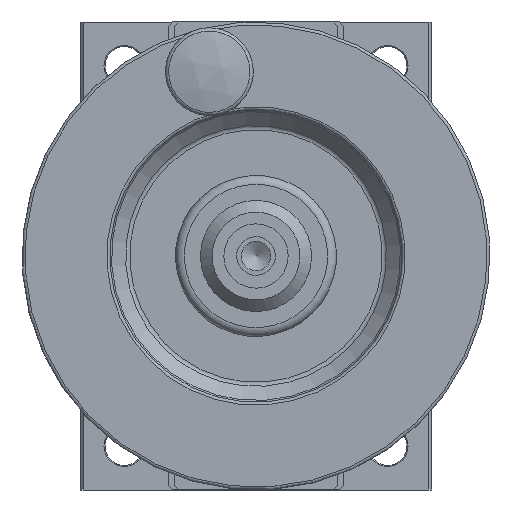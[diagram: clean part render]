
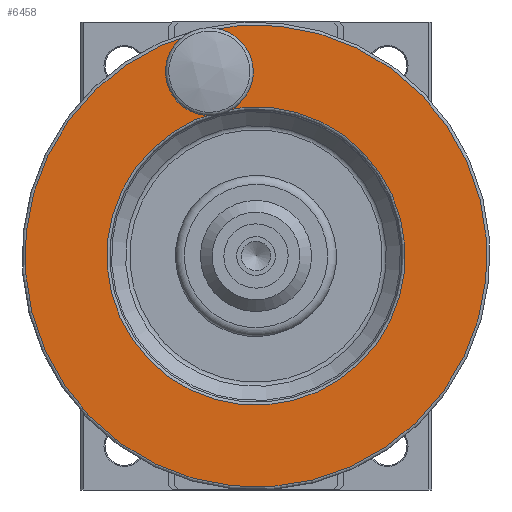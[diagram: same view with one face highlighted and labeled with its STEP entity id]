
A CAD part, left-side view. The second image highlights one B-rep face of the part: STEP entity #6458.
In plain terms, the highlighted planar face has unit normal (-1, 0, 0).
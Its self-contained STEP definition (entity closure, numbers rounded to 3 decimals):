
#818 = AXIS2_PLACEMENT_3D ( 'NONE', #9077, #12064, #6904 ) ;
#1016 = EDGE_CURVE ( 'NONE', #2532, #2532, #6403, .T. ) ;
#1154 = DIRECTION ( 'NONE',  ( 1., 0., 0. ) ) ;
#1342 = CARTESIAN_POINT ( 'NONE',  ( -101., 21.969, -8.492 ) ) ;
#1735 = AXIS2_PLACEMENT_3D ( 'NONE', #7546, #7614, #9660 ) ;
#1890 = ORIENTED_EDGE ( 'NONE', *, *, #6954, .T. ) ;
#2456 = VERTEX_POINT ( 'NONE', #5316 ) ;
#2532 = VERTEX_POINT ( 'NONE', #8436 ) ;
#2724 = EDGE_LOOP ( 'NONE', ( #1890 ) ) ;
#3503 = FACE_BOUND ( 'NONE', #2724, .T. ) ;
#3571 = PLANE ( 'NONE',  #1735 ) ;
#3922 = VERTEX_POINT ( 'NONE', #9939 ) ;
#4369 = FACE_OUTER_BOUND ( 'NONE', #6319, .T. ) ;
#4498 = FACE_BOUND ( 'NONE', #5889, .T. ) ;
#4515 = ORIENTED_EDGE ( 'NONE', *, *, #1016, .T. ) ;
#4920 = AXIS2_PLACEMENT_3D ( 'NONE', #1342, #1154, #10158 ) ;
#4954 = DIRECTION ( 'NONE',  ( 1., 0., 0. ) ) ;
#5316 = CARTESIAN_POINT ( 'NONE',  ( -101., -10.722, -33.747 ) ) ;
#5889 = EDGE_LOOP ( 'NONE', ( #4515 ) ) ;
#6319 = EDGE_LOOP ( 'NONE', ( #11252 ) ) ;
#6402 = CIRCLE ( 'NONE', #10413, 25.5 ) ;
#6403 = CIRCLE ( 'NONE', #4920, 3.001 ) ;
#6458 = ADVANCED_FACE ( 'NONE', ( #4498, #3503, #4369 ), #3571, .F. ) ;
#6523 = CIRCLE ( 'NONE', #818, 39.5 ) ;
#6904 = DIRECTION ( 'NONE',  ( 0., -0.969, 0.245 ) ) ;
#6954 = EDGE_CURVE ( 'NONE', #2456, #2456, #6402, .T. ) ;
#7546 = CARTESIAN_POINT ( 'NONE',  ( -101., 4.192, -78.779 ) ) ;
#7614 = DIRECTION ( 'NONE',  ( 1., 0., 0. ) ) ;
#8370 = CARTESIAN_POINT ( 'NONE',  ( -101., 14., -40. ) ) ;
#8436 = CARTESIAN_POINT ( 'NONE',  ( -101., 19.06, -7.756 ) ) ;
#9077 = CARTESIAN_POINT ( 'NONE',  ( -101., 14., -40. ) ) ;
#9660 = DIRECTION ( 'NONE',  ( 0., -0.969, 0.245 ) ) ;
#9939 = CARTESIAN_POINT ( 'NONE',  ( -101., -24.294, -30.315 ) ) ;
#10105 = EDGE_CURVE ( 'NONE', #3922, #3922, #6523, .T. ) ;
#10158 = DIRECTION ( 'NONE',  ( 0., -0.969, 0.245 ) ) ;
#10413 = AXIS2_PLACEMENT_3D ( 'NONE', #8370, #4954, #12175 ) ;
#11252 = ORIENTED_EDGE ( 'NONE', *, *, #10105, .T. ) ;
#12064 = DIRECTION ( 'NONE',  ( -1., 0., 0. ) ) ;
#12175 = DIRECTION ( 'NONE',  ( 0., -0.969, 0.245 ) ) ;
